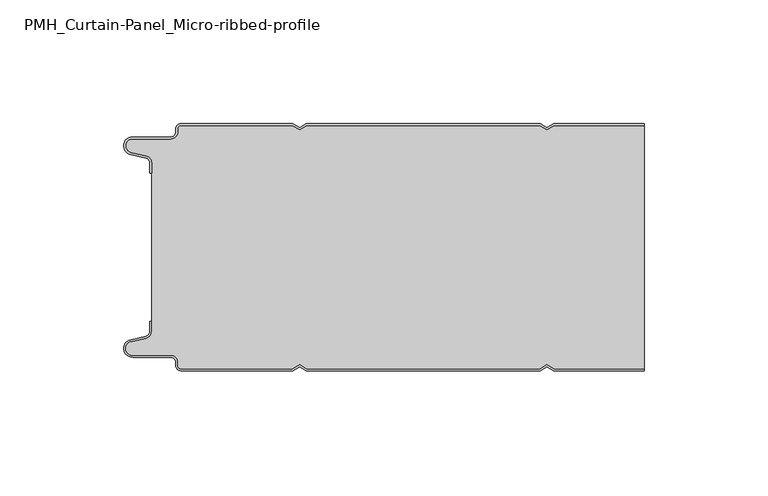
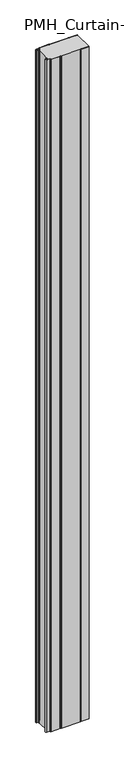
"""IFC4 building model written with IfcOpenShell, lengths in millimetres: plate geometry, PMH_Curtain-Panel_Micro-ribbed-profile : ACH_PMH_Stone-wool-Panel_100M."""

from ifc_helpers import new_model, si_unit, point, frame_2d, origin, origin_with_axes, place, context, project, spatial, polyline, circle_curve, trimmed, segment, composite_curve, outline, extrude, source, transform, mapped, element, save


def pmh_curtain_panel_micro_ribbed_profile_82d1a99d(model_context):
    return source(origin(), model_context, "Body", "SweptSolid", [
        extrude(outline(composite_curve([segment(trimmed(circle_curve(frame_2d((-102.0, -15.878557)), 2.0), [point((-100.0, -15.878557))], [point((-101.5500978, -13.9298169))], True, "CARTESIAN"), True, "CONTINUOUS"), segment(polyline([(-101.5500978, -13.9298169), (-107.7098239, -12.507732)]), True, "CONTINUOUS"), segment(trimmed(circle_curve(frame_2d((-106.9, -9.0)), 3.6), [point((-107.7098239, -12.507732))], [point((-106.9, -5.4))], False, "CARTESIAN"), True, "CONTINUOUS"), segment(polyline([(-106.9, -5.4), (-91.4, -5.4)]), True, "CONTINUOUS"), segment(trimmed(circle_curve(frame_2d((-91.4, -3.4)), 2.0), [point((-91.4, -5.4))], [point((-89.4, -3.4))], True, "CARTESIAN"), True, "CONTINUOUS"), segment(polyline([(-89.4, -3.4), (-89.4, -2.0)]), True, "CONTINUOUS"), segment(trimmed(circle_curve(frame_2d((-87.4, -2.0)), 2.0), [point((-89.4, -2.0))], [point((-87.4, 0.0))], False, "CARTESIAN"), True, "CONTINUOUS"), segment(polyline([(-87.4, 0.0), (-42.0999995, 0.0), (-39.4, -1.5588455), (-36.7000005, 0.0), (57.9000005, 0.0), (60.6, -1.5588455), (63.2999995, 0.0), (100.0, 0.0), (100.0, -0.8), (63.5143588, -0.8), (60.6, -2.482606), (57.6856412, -0.8), (-36.4856412, -0.8), (-39.4, -2.482606), (-42.3143588, -0.8), (-87.4, -0.8)]), True, "CONTINUOUS"), segment(trimmed(circle_curve(frame_2d((-87.4, -2.0)), 1.2), [point((-87.4, -0.8))], [point((-88.6, -2.0))], True, "CARTESIAN"), True, "CONTINUOUS"), segment(polyline([(-88.6, -2.0), (-88.6, -3.4)]), True, "CONTINUOUS"), segment(trimmed(circle_curve(frame_2d((-91.4, -3.4)), 2.8), [point((-88.6, -3.4))], [point((-91.4, -6.2))], False, "CARTESIAN"), True, "CONTINUOUS"), segment(polyline([(-91.4, -6.2), (-106.9, -6.2)]), True, "CONTINUOUS"), segment(trimmed(circle_curve(frame_2d((-106.9, -9.0)), 2.8), [point((-106.9, -6.2))], [point((-107.529863, -11.7282362))], True, "CARTESIAN"), True, "CONTINUOUS"), segment(polyline([(-107.529863, -11.7282362), (-101.370137, -13.150321)]), True, "CONTINUOUS"), segment(trimmed(circle_curve(frame_2d((-102.0, -15.878557)), 2.8), [point((-101.370137, -13.150321))], [point((-99.2, -15.878557))], False, "CARTESIAN"), True, "CONTINUOUS"), segment(polyline([(-99.2, -15.878557), (-99.2, -20.0), (-100.0, -20.0), (-100.0, -15.878557)]), True, "CONTINUOUS")], self_intersect=False)), origin_with_axes(), (0.0, 0.0, 1.0), 3500.0),
        extrude(outline(composite_curve([segment(polyline([(-99.2, -84.1214426), (-99.2, -15.8785573)]), True, "CONTINUOUS"), segment(trimmed(circle_curve(frame_2d((-102.0, -15.8785573)), 2.8), [point((-99.2, -15.8785573))], [point((-101.370137, -13.1503212))], True, "CARTESIAN"), True, "CONTINUOUS"), segment(polyline([(-101.370137, -13.1503212), (-107.5298631, -11.7282362)]), True, "CONTINUOUS"), segment(trimmed(circle_curve(frame_2d((-106.9, -9.0)), 2.8), [point((-107.5298631, -11.7282362))], [point((-106.9, -6.2))], False, "CARTESIAN"), True, "CONTINUOUS"), segment(polyline([(-106.9, -6.2), (-91.4000001, -6.2)]), True, "CONTINUOUS"), segment(trimmed(circle_curve(frame_2d((-91.4000001, -3.4)), 2.8), [point((-91.4000001, -6.2))], [point((-88.6000001, -3.4))], True, "CARTESIAN"), True, "CONTINUOUS"), segment(polyline([(-88.6000001, -3.4), (-88.6000001, -2.0)]), True, "CONTINUOUS"), segment(trimmed(circle_curve(frame_2d((-87.4000001, -2.0)), 1.2), [point((-88.6000001, -2.0))], [point((-87.4000001, -0.8))], False, "CARTESIAN"), True, "CONTINUOUS"), segment(polyline([(-87.4000001, -0.8), (-42.3143589, -0.8), (-39.4000001, -2.482606), (-36.4856412, -0.8), (57.6856411, -0.8), (60.5999999, -2.482606), (63.5143588, -0.8), (100.0, -0.8), (100.0, -99.2), (63.5143588, -99.2), (60.5999999, -97.517394), (57.6856411, -99.2), (-36.4856412, -99.2), (-39.4000001, -97.517394), (-42.3143589, -99.2), (-87.4000001, -99.2)]), True, "CONTINUOUS"), segment(trimmed(circle_curve(frame_2d((-87.4000001, -98.0)), 1.2), [point((-87.4000001, -99.2))], [point((-88.6000001, -98.0))], False, "CARTESIAN"), True, "CONTINUOUS"), segment(polyline([(-88.6000001, -98.0), (-88.6000001, -96.6)]), True, "CONTINUOUS"), segment(trimmed(circle_curve(frame_2d((-91.4000001, -96.6)), 2.8), [point((-88.6000001, -96.6))], [point((-91.4000001, -93.8))], True, "CARTESIAN"), True, "CONTINUOUS"), segment(polyline([(-91.4000001, -93.8), (-106.9, -93.8)]), True, "CONTINUOUS"), segment(trimmed(circle_curve(frame_2d((-106.9, -91.0)), 2.8), [point((-106.9, -93.8))], [point((-107.5298631, -88.2717638))], False, "CARTESIAN"), True, "CONTINUOUS"), segment(polyline([(-107.5298631, -88.2717638), (-101.370137, -86.8496788)]), True, "CONTINUOUS"), segment(trimmed(circle_curve(frame_2d((-102.0, -84.1214426)), 2.8), [point((-101.370137, -86.8496788))], [point((-99.2, -84.1214426))], True, "CARTESIAN"), True, "CONTINUOUS")], self_intersect=False)), origin_with_axes(), (0.0, 0.0, 1.0), 3500.0),
        extrude(outline(composite_curve([segment(polyline([(-100.0, -84.121443), (-100.0, -80.0), (-99.2, -80.0), (-99.2, -84.121443)]), True, "CONTINUOUS"), segment(trimmed(circle_curve(frame_2d((-102.0, -84.121443)), 2.8), [point((-99.2, -84.121443))], [point((-101.370137, -86.8496792))], False, "CARTESIAN"), True, "CONTINUOUS"), segment(polyline([(-101.370137, -86.8496792), (-107.529863, -88.271764)]), True, "CONTINUOUS"), segment(trimmed(circle_curve(frame_2d((-106.9, -91.0)), 2.8), [point((-107.529863, -88.271764))], [point((-106.9, -93.8))], True, "CARTESIAN"), True, "CONTINUOUS"), segment(polyline([(-106.9, -93.8), (-91.4, -93.8)]), True, "CONTINUOUS"), segment(trimmed(circle_curve(frame_2d((-91.4, -96.6)), 2.8), [point((-91.4, -93.8))], [point((-88.6, -96.6))], False, "CARTESIAN"), True, "CONTINUOUS"), segment(polyline([(-88.6, -96.6), (-88.6, -98.0)]), True, "CONTINUOUS"), segment(trimmed(circle_curve(frame_2d((-87.4, -98.0)), 1.2), [point((-88.6, -98.0))], [point((-87.4, -99.2))], True, "CARTESIAN"), True, "CONTINUOUS"), segment(polyline([(-87.4, -99.2), (-42.3143588, -99.2), (-39.4, -97.517394), (-36.4856412, -99.2), (57.6856412, -99.2), (60.6, -97.517394), (63.5143588, -99.2), (100.0, -99.2), (100.0, -100.0), (63.2999995, -100.0), (60.6, -98.4411545), (57.9000005, -100.0), (-36.7000005, -100.0), (-39.4, -98.4411545), (-42.0999995, -100.0), (-87.4, -100.0)]), True, "CONTINUOUS"), segment(trimmed(circle_curve(frame_2d((-87.4, -98.0)), 2.0), [point((-87.4, -100.0))], [point((-89.4, -98.0))], False, "CARTESIAN"), True, "CONTINUOUS"), segment(polyline([(-89.4, -98.0), (-89.4, -96.6)]), True, "CONTINUOUS"), segment(trimmed(circle_curve(frame_2d((-91.4, -96.6)), 2.0), [point((-89.4, -96.6))], [point((-91.4, -94.6))], True, "CARTESIAN"), True, "CONTINUOUS"), segment(polyline([(-91.4, -94.6), (-106.9, -94.6)]), True, "CONTINUOUS"), segment(trimmed(circle_curve(frame_2d((-106.9, -91.0)), 3.6), [point((-106.9, -94.6))], [point((-107.7098239, -87.4922678))], False, "CARTESIAN"), True, "CONTINUOUS"), segment(polyline([(-107.7098239, -87.4922678), (-101.5500979, -86.070183)]), True, "CONTINUOUS"), segment(trimmed(circle_curve(frame_2d((-102.0, -84.121443)), 2.0), [point((-101.5500979, -86.070183))], [point((-100.0, -84.121443))], True, "CARTESIAN"), True, "CONTINUOUS")], self_intersect=False)), origin_with_axes(), (0.0, 0.0, 1.0), 3500.0),
    ])


if __name__ == "__main__":
    model = new_model("IFC4")
    model_context = context("Model", 3, world=origin())
    ifc_project = project(units=[si_unit("LENGTHUNIT", "METRE", prefix="MILLI")], contexts=[model_context])
    site = spatial("IfcSite", under=ifc_project)
    building = spatial("IfcBuilding", under=site)
    placement = place(None, origin())
    pmh_curtain_panel_micro_ribbed_profile_shape = pmh_curtain_panel_micro_ribbed_profile_82d1a99d(model_context)
    element("IfcPlate", 1, ObjectType="PMH_Curtain-Panel_Micro-ribbed-profile : ACH_PMH_Stone-wool-Panel_100M", at=placement, inside=building, context=model_context, shape_type="MappedRepresentation", body=[
        mapped(pmh_curtain_panel_micro_ribbed_profile_shape, transform((0.0, 0.0, 0.0), x_axis=(1.0, 0.0, 0.0), y_axis=(0.0, 1.0, 0.0), z_axis=(0.0, 0.0, 1.0))),
    ])
    save(model, "model.ifc")
